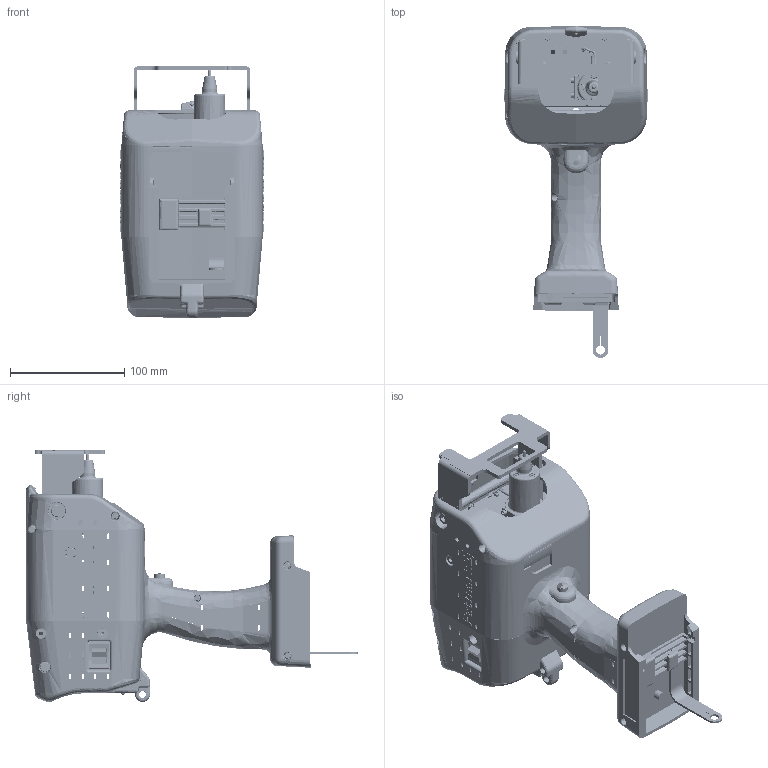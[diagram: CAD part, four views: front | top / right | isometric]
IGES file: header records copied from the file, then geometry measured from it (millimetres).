
Start section: SolidWorks IGES file using analytic representation for surfaces
Global section: file name: C:\東京彫刻 Solidworks Data\_外観図関係\Patmark2\3D\2026_07\Patmark2 v1 -A AC.IGS; native system: SolidWorks 2023; preprocessor: SolidWorks 2023; author: tocho; date: 260709.081229; units: millimetre
Bounding box: 125.6 x 290.9 x 221 mm (x, y, z)
Surface area: 432615.1 mm2 (no closed solid volume)
Topology: 0 solids, 0 shells, 6556 faces, 71784 edges, 71687 vertices
Faces by surface type: bspline 4221, revolution 2335
